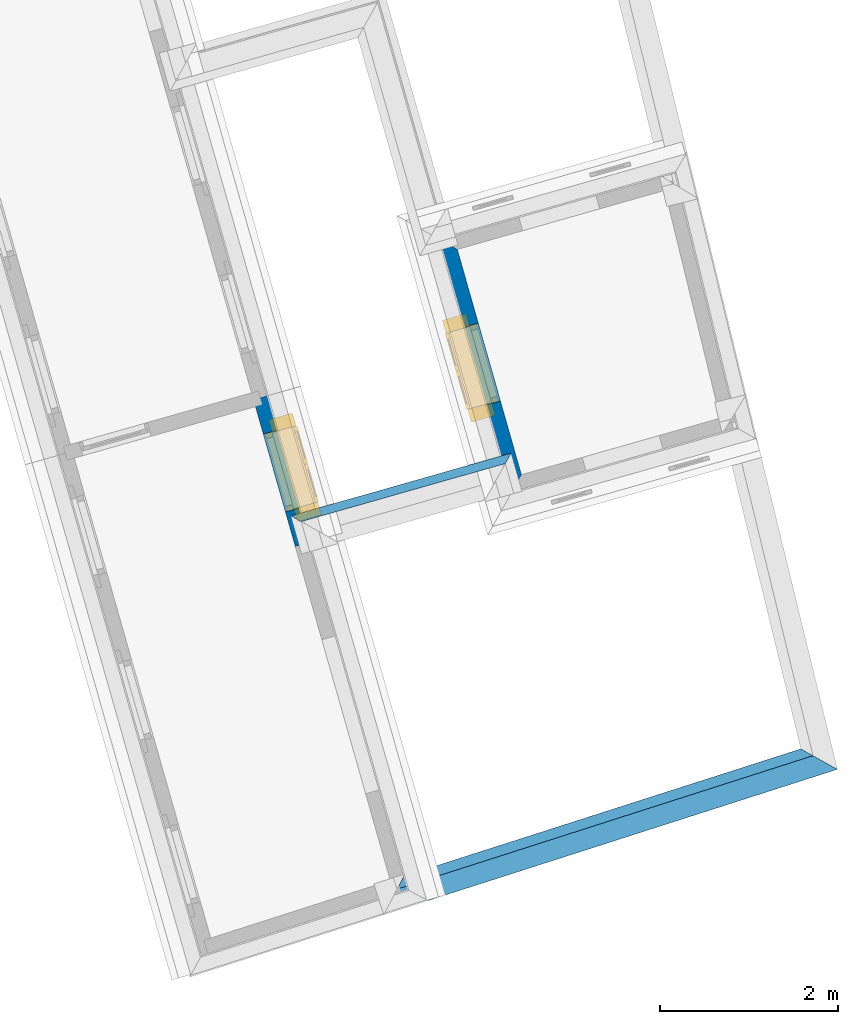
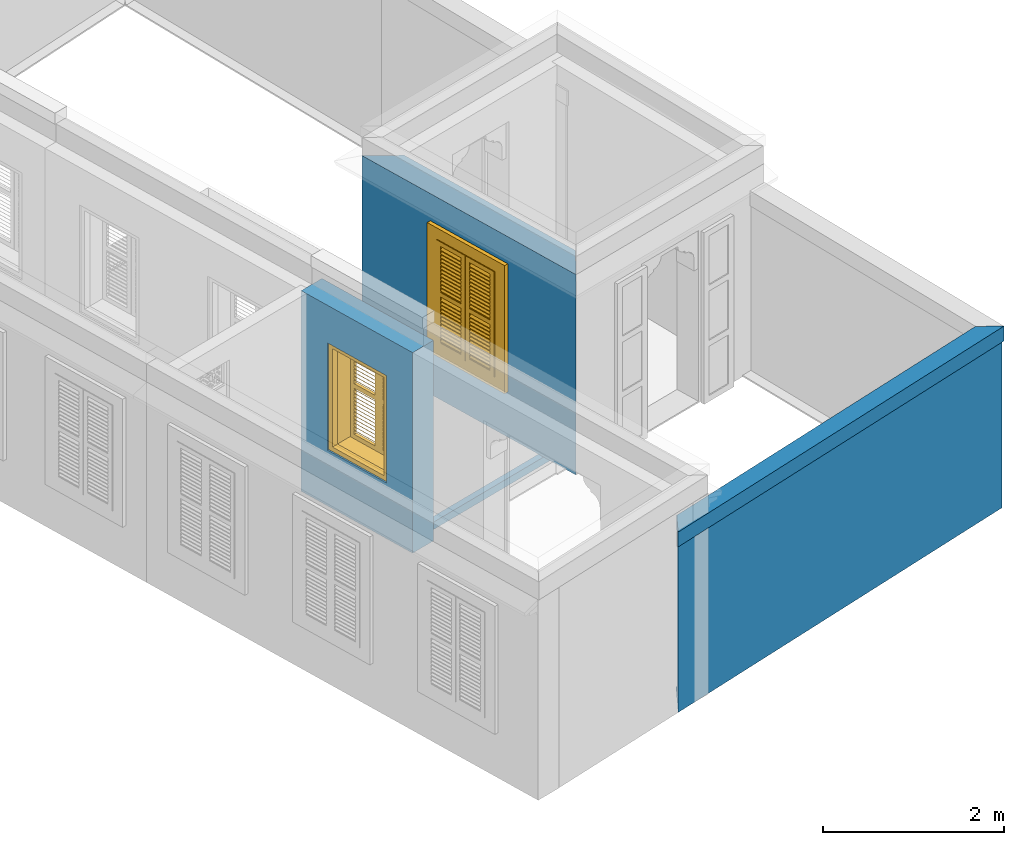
# One storey, part 5 of 13: 5 walls, 2 windows, 2 openings.
"""IFC4 building model written with IfcOpenShell, lengths in metres."""

from ifc_helpers import new_model, si_unit, frame, origin, origin_with_axes, place, context, subcontext, project, spatial, polyline, outline, extrude, clip, halfspace, faceted_brep, source, transform, mapped, material, layer, layer_set, layer_usage, material_profile, profile_set, profile_usage, type_object, type_shapes, element, fill, save


model = new_model("IFC4")

# Units and contexts
model_context = context("Model", 3, world=origin_with_axes())
body_context = subcontext(model_context, "Body", "Model", "MODEL_VIEW")
ifc_project = project(units=[si_unit("PLANEANGLEUNIT", "RADIAN"), si_unit("MASSUNIT", "GRAM", prefix="KILO"), si_unit("FORCEUNIT", "NEWTON", prefix="KILO"), si_unit("LENGTHUNIT", "METRE"), si_unit("AREAUNIT", "SQUARE_METRE"), si_unit("VOLUMEUNIT", "CUBIC_METRE")], contexts=[model_context, model_context])

# Site, building, storey
site_placement = place(None, origin_with_axes())
site = spatial("IfcSite", under=ifc_project, at=site_placement, Name="Site plot-3", CompositionType="ELEMENT")
building_placement = place(None, origin_with_axes())
building = spatial("IfcBuilding", under=site, at=building_placement, Name="Building plot-3", CompositionType="ELEMENT")
storey_placement = place(None, frame((0.0, 0.0, 3.3), z_axis=(0.0, 0.0, 1.0), x_axis=(1.0, 0.0, 0.0)))
storey = spatial("IfcBuildingStorey", under=building, at=storey_placement, Name="plot-3 1", CompositionType="ELEMENT", Elevation=3.3)

# Wall, opening, window
ifc_material = material(Name="Masonry")
ifc_layer = layer(ifc_material, 0.33, ventilated=False)
ifc_layer_set = layer_set([ifc_layer], Name="exterior_0.08_0.25")
ifc_layer_usage = layer_usage(ifc_layer_set, "AXIS2", "POSITIVE", -0.25)
wall_type_1 = type_object("IfcWallType", Name="exterior_0.08_0.25", PredefinedType="SOLIDWALL", material=ifc_layer_set)
wall_1_placement = place(storey_placement, frame((13.2483149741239, 23.0706030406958, 0.0), z_axis=(0.0, 0.0, 1.0), x_axis=(0.273606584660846, -0.961841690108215, 0.0)))
wall_1 = element("IfcWall", 1, at=wall_1_placement, inside=storey, type_object=wall_type_1, material=ifc_layer_usage, Name="exterior", context=body_context, shape_type="SweptSolid", body=[
    extrude(outline(polyline([(0.0799999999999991, 0.0800000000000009), (-0.249999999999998, -0.250000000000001), (3.04101093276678, -0.249999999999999), (2.71101093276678, 0.0800000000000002), (0.0799999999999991, 0.0800000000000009)])), origin_with_axes(), (0.0, 0.0, 1.0), 2.7),
])
opening_1_placement = place(wall_1_placement, frame((0.940505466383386, 0.0, 0.75)))
opening_1 = element("IfcOpeningElement", 2, at=opening_1_placement, cuts=wall_1, Name="My Opening", ObjectType="Opening", context=body_context, shape_type="SweptSolid", body=[
    extrude(outline(polyline([(0.0, -0.270000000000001), (0.910000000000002, -0.27), (0.910000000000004, 1.1), (1.88737914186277e-15, 1.1), (0.0, -0.270000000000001)])), origin_with_axes(), (0.0, 0.0, 1.0), 1.445),
])
window_type = type_object("IfcWindowType", Name="shuttered_shorter", PartitioningType="DOUBLE_PANEL_HORIZONTAL", PredefinedType="NOTDEFINED")
shared_shape = source(origin(), body_context, "Body", "Brep", [
    faceted_brep([(0.393, 0.0, 0.622), (0.074, 0.0, 0.622), (0.074, 0.0, 0.632), (0.393, 0.0, 0.632), (0.074, -0.04, 0.592), (0.393, -0.04, 0.592), (0.393, -0.04, 0.582), (0.074, -0.04, 0.582), (0.517, 0.0, 0.682), (0.836, 0.0, 0.682), (0.836, 0.0, 0.672), (0.517, 0.0, 0.672), (0.517, -0.04, 0.642), (0.836, -0.04, 0.642), (0.836, -0.04, 0.632), (0.517, -0.04, 0.632), (0.517, 0.0, 0.632), (0.836, 0.0, 0.632), (0.836, 0.0, 0.622), (0.517, 0.0, 0.622), (0.517, -0.04, 0.592), (0.836, -0.04, 0.592), (0.836, -0.04, 0.582), (0.517, -0.04, 0.582), (0.517, 0.0, 0.232), (0.836, 0.0, 0.232), (0.836, 0.0, 0.222), (0.517, 0.0, 0.222), (0.517, -0.04, 0.192), (0.836, -0.04, 0.192), (0.836, -0.04, 0.182), (0.517, -0.04, 0.182), (0.517, 0.0, 0.532), (0.836, 0.0, 0.532), (0.836, 0.0, 0.522), (0.517, 0.0, 0.522), (0.517, -0.04, 0.492), (0.836, -0.04, 0.492), (0.836, -0.04, 0.482), (0.517, -0.04, 0.482), (0.517, 0.0, 0.482), (0.836, 0.0, 0.482), (0.836, 0.0, 0.472), (0.517, 0.0, 0.472), (0.517, -0.04, 0.442), (0.836, -0.04, 0.442), (0.836, -0.04, 0.432), (0.517, -0.04, 0.432), (0.517, 0.0, 0.582), (0.836, 0.0, 0.582), (0.836, 0.0, 0.572), (0.517, 0.0, 0.572), (0.517, -0.04, 0.542), (0.836, -0.04, 0.542), (0.836, -0.04, 0.532), (0.517, -0.04, 0.532), (0.517, 0.0, 0.182), (0.836, 0.0, 0.182), (0.836, 0.0, 0.172), (0.517, 0.0, 0.172), (0.517, -0.04, 0.142), (0.836, -0.04, 0.142), (0.836, -0.04, 0.132), (0.517, -0.04, 0.132), (0.517, 0.0, 0.382), (0.836, 0.0, 0.382), (0.836, 0.0, 0.372), (0.517, 0.0, 0.372), (0.517, -0.04, 0.342), (0.836, -0.04, 0.342), (0.836, -0.04, 0.332), (0.517, -0.04, 0.332), (0.517, 0.0, 0.432), (0.836, 0.0, 0.432), (0.836, 0.0, 0.422), (0.517, 0.0, 0.422), (0.517, -0.04, 0.392), (0.836, -0.04, 0.392), (0.836, -0.04, 0.382), (0.517, -0.04, 0.382), (0.517, 0.0, 0.132), (0.836, 0.0, 0.132), (0.836, 0.0, 0.122), (0.517, 0.0, 0.122), (0.517, -0.04, 0.092), (0.836, -0.04, 0.092), (0.836, -0.04, 0.082), (0.517, -0.04, 0.082), (0.517, 0.0, 0.282), (0.836, 0.0, 0.282), (0.836, 0.0, 0.272), (0.517, 0.0, 0.272), (0.517, -0.04, 0.242), (0.836, -0.04, 0.242), (0.836, -0.04, 0.232), (0.517, -0.04, 0.232), (0.517, 0.0, 0.332), (0.836, 0.0, 0.332), (0.836, 0.0, 0.322), (0.517, 0.0, 0.322), (0.517, -0.04, 0.292), (0.836, -0.04, 0.292), (0.836, -0.04, 0.282), (0.517, -0.04, 0.282), (0.517, 0.0, 1.362667), (0.836, 0.0, 1.362667), (0.836, 0.0, 1.352667), (0.517, 0.0, 1.352667), (0.517, -0.04, 1.322667), (0.836, -0.04, 1.322667), (0.836, -0.04, 1.312667), (0.517, -0.04, 1.312667), (0.517, 0.0, 1.312667), (0.836, 0.0, 1.312667), (0.836, 0.0, 1.302667), (0.517, 0.0, 1.302667), (0.517, -0.04, 1.272667), (0.836, -0.04, 1.272667), (0.836, -0.04, 1.262667), (0.517, -0.04, 1.262667), (0.517, 0.0, 0.912667), (0.836, 0.0, 0.912667), (0.836, 0.0, 0.902667), (0.517, 0.0, 0.902667), (0.517, -0.04, 0.872667), (0.836, -0.04, 0.872667), (0.836, -0.04, 0.862667), (0.517, -0.04, 0.862667), (0.517, 0.0, 1.212667), (0.836, 0.0, 1.212667), (0.836, 0.0, 1.202667), (0.517, 0.0, 1.202667), (0.517, -0.04, 1.172667), (0.836, -0.04, 1.172667), (0.836, -0.04, 1.162667), (0.517, -0.04, 1.162667), (0.517, 0.0, 1.162667), (0.836, 0.0, 1.162667), (0.836, 0.0, 1.152667), (0.517, 0.0, 1.152667), (0.517, -0.04, 1.122667), (0.836, -0.04, 1.122667), (0.836, -0.04, 1.112667), (0.517, -0.04, 1.112667), (0.517, 0.0, 1.262667), (0.836, 0.0, 1.262667), (0.836, 0.0, 1.252667), (0.517, 0.0, 1.252667), (0.517, -0.04, 1.222667), (0.836, -0.04, 1.222667), (0.836, -0.04, 1.212667), (0.517, -0.04, 1.212667), (0.517, 0.0, 0.862667), (0.836, 0.0, 0.862667), (0.836, 0.0, 0.852667), (0.517, 0.0, 0.852667), (0.517, -0.04, 0.822667), (0.836, -0.04, 0.822667), (0.836, -0.04, 0.812667), (0.517, -0.04, 0.812667), (0.517, 0.0, 1.062667), (0.836, 0.0, 1.062667), (0.836, 0.0, 1.052667), (0.517, 0.0, 1.052667), (0.517, -0.04, 1.022667), (0.836, -0.04, 1.022667), (0.836, -0.04, 1.012667), (0.517, -0.04, 1.012667), (0.517, 0.0, 1.112667), (0.836, 0.0, 1.112667), (0.836, 0.0, 1.102667), (0.517, 0.0, 1.102667), (0.517, -0.04, 1.072667), (0.836, -0.04, 1.072667), (0.836, -0.04, 1.062667), (0.517, -0.04, 1.062667), (0.517, 0.0, 0.812667), (0.836, 0.0, 0.812667), (0.836, 0.0, 0.802667), (0.517, 0.0, 0.802667), (0.517, -0.04, 0.772667), (0.836, -0.04, 0.772667), (0.836, -0.04, 0.762667), (0.517, -0.04, 0.762667), (0.517, 0.0, 0.962667), (0.836, 0.0, 0.962667), (0.836, 0.0, 0.952667), (0.517, 0.0, 0.952667), (0.517, -0.04, 0.922667), (0.836, -0.04, 0.922667), (0.836, -0.04, 0.912667), (0.517, -0.04, 0.912667), (0.517, 0.0, 1.012667), (0.836, 0.0, 1.012667), (0.836, 0.0, 1.002667), (0.517, 0.0, 1.002667), (0.517, -0.04, 0.972667), (0.836, -0.04, 0.972667), (0.836, -0.04, 0.962667), (0.517, -0.04, 0.962667), (0.074, 0.0, 0.682), (0.393, 0.0, 0.682), (0.393, 0.0, 0.672), (0.074, 0.0, 0.672), (0.074, -0.04, 0.642), (0.393, -0.04, 0.642), (0.393, -0.04, 0.632), (0.074, -0.04, 0.632), (0.074, 0.0, 0.232), (0.393, 0.0, 0.232), (0.393, 0.0, 0.222), (0.074, 0.0, 0.222), (0.074, -0.04, 0.192), (0.393, -0.04, 0.192), (0.393, -0.04, 0.182), (0.074, -0.04, 0.182), (0.074, 0.0, 0.532), (0.393, 0.0, 0.532), (0.393, 0.0, 0.522), (0.074, 0.0, 0.522), (0.074, -0.04, 0.492), (0.393, -0.04, 0.492), (0.393, -0.04, 0.482), (0.074, -0.04, 0.482), (0.074, 0.0, 0.482), (0.393, 0.0, 0.482), (0.393, 0.0, 0.472), (0.074, 0.0, 0.472), (0.074, -0.04, 0.442), (0.393, -0.04, 0.442), (0.393, -0.04, 0.432), (0.074, -0.04, 0.432), (0.074, 0.0, 0.582), (0.393, 0.0, 0.582), (0.393, 0.0, 0.572), (0.074, 0.0, 0.572), (0.074, -0.04, 0.542), (0.393, -0.04, 0.542), (0.393, -0.04, 0.532), (0.074, -0.04, 0.532), (0.074, 0.0, 0.182), (0.393, 0.0, 0.182), (0.393, 0.0, 0.172), (0.074, 0.0, 0.172), (0.074, -0.04, 0.142), (0.393, -0.04, 0.142), (0.393, -0.04, 0.132), (0.074, -0.04, 0.132), (0.074, 0.0, 0.382), (0.393, 0.0, 0.382), (0.393, 0.0, 0.372), (0.074, 0.0, 0.372), (0.074, -0.04, 0.342), (0.393, -0.04, 0.342), (0.393, -0.04, 0.332), (0.074, -0.04, 0.332), (0.074, 0.0, 0.432), (0.393, 0.0, 0.432), (0.393, 0.0, 0.422), (0.074, 0.0, 0.422), (0.074, -0.04, 0.392), (0.393, -0.04, 0.392), (0.393, -0.04, 0.382), (0.074, -0.04, 0.382), (0.074, 0.0, 0.132), (0.393, 0.0, 0.132), (0.393, 0.0, 0.122), (0.074, 0.0, 0.122), (0.074, -0.04, 0.092), (0.393, -0.04, 0.092), (0.393, -0.04, 0.082), (0.074, -0.04, 0.082), (0.074, 0.0, 0.282), (0.393, 0.0, 0.282), (0.393, 0.0, 0.272), (0.074, 0.0, 0.272), (0.074, -0.04, 0.242), (0.393, -0.04, 0.242), (0.393, -0.04, 0.232), (0.074, -0.04, 0.232), (0.074, 0.0, 0.332), (0.393, 0.0, 0.332), (0.393, 0.0, 0.322), (0.074, 0.0, 0.322), (0.074, -0.04, 0.292), (0.393, -0.04, 0.292), (0.393, -0.04, 0.282), (0.074, -0.04, 0.282), (0.074, 0.0, 1.362667), (0.393, 0.0, 1.362667), (0.393, 0.0, 1.352667), (0.074, 0.0, 1.352667), (0.074, -0.04, 1.322667), (0.393, -0.04, 1.322667), (0.393, -0.04, 1.312667), (0.074, -0.04, 1.312667), (0.074, 0.0, 1.312667), (0.393, 0.0, 1.312667), (0.393, 0.0, 1.302667), (0.074, 0.0, 1.302667), (0.074, -0.04, 1.272667), (0.393, -0.04, 1.272667), (0.393, -0.04, 1.262667), (0.074, -0.04, 1.262667), (0.074, 0.0, 0.912667), (0.393, 0.0, 0.912667), (0.393, 0.0, 0.902667), (0.074, 0.0, 0.902667), (0.074, -0.04, 0.872667), (0.393, -0.04, 0.872667), (0.393, -0.04, 0.862667), (0.074, -0.04, 0.862667), (0.074, 0.0, 1.212667), (0.393, 0.0, 1.212667), (0.393, 0.0, 1.202667), (0.074, 0.0, 1.202667), (0.074, -0.04, 1.172667), (0.393, -0.04, 1.172667), (0.393, -0.04, 1.162667), (0.074, -0.04, 1.162667), (0.074, 0.0, 1.162667), (0.393, 0.0, 1.162667), (0.393, 0.0, 1.152667), (0.074, 0.0, 1.152667), (0.074, -0.04, 1.122667), (0.393, -0.04, 1.122667), (0.393, -0.04, 1.112667), (0.074, -0.04, 1.112667), (0.074, 0.0, 1.262667), (0.393, 0.0, 1.262667), (0.393, 0.0, 1.252667), (0.074, 0.0, 1.252667), (0.074, -0.04, 1.222667), (0.393, -0.04, 1.222667), (0.393, -0.04, 1.212667), (0.074, -0.04, 1.212667), (0.074, 0.0, 0.862667), (0.393, 0.0, 0.862667), (0.393, 0.0, 0.852667), (0.074, 0.0, 0.852667), (0.074, -0.04, 0.822667), (0.393, -0.04, 0.822667), (0.393, -0.04, 0.812667), (0.074, -0.04, 0.812667), (0.074, 0.0, 1.062667), (0.393, 0.0, 1.062667), (0.393, 0.0, 1.052667), (0.074, 0.0, 1.052667), (0.074, -0.04, 1.022667), (0.393, -0.04, 1.022667), (0.393, -0.04, 1.012667), (0.074, -0.04, 1.012667), (0.074, 0.0, 1.112667), (0.393, 0.0, 1.112667), (0.393, 0.0, 1.102667), (0.074, 0.0, 1.102667), (0.074, -0.04, 1.072667), (0.393, -0.04, 1.072667), (0.393, -0.04, 1.062667), (0.074, -0.04, 1.062667), (0.074, 0.0, 0.812667), (0.393, 0.0, 0.812667), (0.393, 0.0, 0.802667), (0.074, 0.0, 0.802667), (0.074, -0.04, 0.772667), (0.393, -0.04, 0.772667), (0.393, -0.04, 0.762667), (0.074, -0.04, 0.762667), (0.074, 0.0, 0.962667), (0.393, 0.0, 0.962667), (0.393, 0.0, 0.952667), (0.074, 0.0, 0.952667), (0.074, -0.04, 0.922667), (0.393, -0.04, 0.922667), (0.393, -0.04, 0.912667), (0.074, -0.04, 0.912667), (0.074, 0.0, 1.012667), (0.393, 0.0, 1.012667), (0.393, 0.0, 1.002667), (0.074, 0.0, 1.002667), (0.074, -0.04, 0.972667), (0.393, -0.04, 0.972667), (0.393, -0.04, 0.962667), (0.074, -0.04, 0.962667), (0.517, -0.04, 0.072), (0.457, -0.04, 0.012), (0.896, -0.04, 0.012), (0.836, -0.04, 0.072), (0.457, -0.04, 0.692667), (0.517, -0.04, 0.692667), (0.457, 0.0, 0.012), (0.896, 0.0, 0.012), (0.836, -0.04, 0.692667), (0.896, -0.04, 0.692667), (0.836, 0.0, 0.072), (0.517, 0.0, 0.072), (0.457, 0.0, 0.692667), (0.517, 0.0, 0.692667), (0.517, -0.04, 0.752666), (0.457, -0.04, 0.752666), (0.896, 0.0, 0.692667), (0.836, 0.0, 0.692667), (0.836, -0.04, 0.752666), (0.896, -0.04, 0.752666), (0.457, 0.0, 0.752666), (0.457, -0.04, 1.433333), (0.517, -0.04, 1.373333), (0.896, 0.0, 0.752666), (0.836, -0.04, 1.373333), (0.896, -0.04, 1.433333), (0.457, 0.0, 1.433333), (0.517, 0.0, 0.752666), (0.836, 0.0, 0.752666), (0.517, 0.0, 1.373333), (0.896, 0.0, 1.433333), (0.836, 0.0, 1.373333), (0.074, -0.04, 0.072), (0.014, -0.04, 0.012), (0.453, -0.04, 0.012), (0.393, -0.04, 0.072), (0.014, -0.04, 0.692667), (0.074, -0.04, 0.692667), (0.014, 0.0, 0.012), (0.453, 0.0, 0.012), (0.393, -0.04, 0.692667), (0.453, -0.04, 0.692667), (0.393, 0.0, 0.072), (0.074, 0.0, 0.072), (0.014, 0.0, 0.692667), (0.074, 0.0, 0.692667), (0.074, -0.04, 0.752666), (0.014, -0.04, 0.752666), (0.453, 0.0, 0.692667), (0.393, 0.0, 0.692667), (0.393, -0.04, 0.752666), (0.453, -0.04, 0.752666), (0.014, 0.0, 0.752666), (0.014, -0.04, 1.433333), (0.074, -0.04, 1.373333), (0.453, 0.0, 0.752666), (0.393, -0.04, 1.373333), (0.453, -0.04, 1.433333), (0.014, 0.0, 1.433333), (0.074, 0.0, 0.752666), (0.393, 0.0, 0.752666), (0.074, 0.0, 1.373333), (0.453, 0.0, 1.433333), (0.393, 0.0, 1.373333), (0.0, 0.33, 1.445), (0.91, 0.33, 1.445), (0.85, 0.33, 1.385), (0.06, 0.33, 1.385), (0.91, 0.25, 1.445), (0.0, 0.25, 1.445), (0.91, 0.25, 1.445), (0.85, 0.33, 0.06), (0.91, 0.33, 0.0), (0.85, 0.25, 1.385), (0.06, 0.25, 1.385), (0.0, 0.33, 0.0), (0.06, 0.33, 0.06), (0.0, 0.25, 0.0), (0.91, 0.25, 0.0), (0.85, 0.25, 0.06), (0.06, 0.25, 0.06), (1.05, 0.25, 1.585), (-0.14, 0.25, 1.585), (-0.14, -0.03, 1.585), (1.05, -0.03, 1.585), (0.9, -0.03, 1.435), (0.01, -0.03, 1.435), (0.01, 0.25, 1.435), (0.9, 0.25, 1.435), (0.9, 0.25, 0.01), (0.9, -0.03, 0.01), (1.05, -0.03, -0.14), (1.05, 0.25, -0.14), (0.01, -0.03, 0.01), (0.01, 0.25, 0.01), (-0.14, -0.03, -0.14), (-0.14, 0.25, -0.14)], [[[0, 1, 2, 3]], [[4, 5, 3, 2]], [[5, 6, 0, 3]], [[1, 0, 6, 7]], [[2, 1, 7, 4]], [[5, 4, 7, 6]], [[8, 9, 10, 11]], [[12, 13, 9, 8]], [[13, 14, 10, 9]], [[14, 15, 11, 10]], [[15, 12, 8, 11]], [[13, 12, 15, 14]], [[16, 17, 18, 19]], [[20, 21, 17, 16]], [[21, 22, 18, 17]], [[22, 23, 19, 18]], [[23, 20, 16, 19]], [[21, 20, 23, 22]], [[24, 25, 26, 27]], [[28, 29, 25, 24]], [[29, 30, 26, 25]], [[30, 31, 27, 26]], [[31, 28, 24, 27]], [[29, 28, 31, 30]], [[32, 33, 34, 35]], [[36, 37, 33, 32]], [[37, 38, 34, 33]], [[38, 39, 35, 34]], [[39, 36, 32, 35]], [[37, 36, 39, 38]], [[40, 41, 42, 43]], [[44, 45, 41, 40]], [[45, 46, 42, 41]], [[46, 47, 43, 42]], [[47, 44, 40, 43]], [[45, 44, 47, 46]], [[48, 49, 50, 51]], [[52, 53, 49, 48]], [[53, 54, 50, 49]], [[54, 55, 51, 50]], [[55, 52, 48, 51]], [[53, 52, 55, 54]], [[56, 57, 58, 59]], [[60, 61, 57, 56]], [[61, 62, 58, 57]], [[62, 63, 59, 58]], [[63, 60, 56, 59]], [[61, 60, 63, 62]], [[64, 65, 66, 67]], [[68, 69, 65, 64]], [[69, 70, 66, 65]], [[70, 71, 67, 66]], [[71, 68, 64, 67]], [[69, 68, 71, 70]], [[72, 73, 74, 75]], [[76, 77, 73, 72]], [[77, 78, 74, 73]], [[78, 79, 75, 74]], [[79, 76, 72, 75]], [[77, 76, 79, 78]], [[80, 81, 82, 83]], [[84, 85, 81, 80]], [[85, 86, 82, 81]], [[86, 87, 83, 82]], [[87, 84, 80, 83]], [[85, 84, 87, 86]], [[88, 89, 90, 91]], [[92, 93, 89, 88]], [[93, 94, 90, 89]], [[94, 95, 91, 90]], [[95, 92, 88, 91]], [[93, 92, 95, 94]], [[96, 97, 98, 99]], [[100, 101, 97, 96]], [[101, 102, 98, 97]], [[102, 103, 99, 98]], [[103, 100, 96, 99]], [[101, 100, 103, 102]], [[104, 105, 106, 107]], [[108, 109, 105, 104]], [[109, 110, 106, 105]], [[110, 111, 107, 106]], [[111, 108, 104, 107]], [[109, 108, 111, 110]], [[112, 113, 114, 115]], [[116, 117, 113, 112]], [[117, 118, 114, 113]], [[118, 119, 115, 114]], [[119, 116, 112, 115]], [[117, 116, 119, 118]], [[120, 121, 122, 123]], [[124, 125, 121, 120]], [[125, 126, 122, 121]], [[126, 127, 123, 122]], [[127, 124, 120, 123]], [[125, 124, 127, 126]], [[128, 129, 130, 131]], [[132, 133, 129, 128]], [[133, 134, 130, 129]], [[134, 135, 131, 130]], [[135, 132, 128, 131]], [[133, 132, 135, 134]], [[136, 137, 138, 139]], [[140, 141, 137, 136]], [[141, 142, 138, 137]], [[142, 143, 139, 138]], [[139, 143, 140, 136]], [[141, 140, 143, 142]], [[144, 145, 146, 147]], [[148, 149, 145, 144]], [[149, 150, 146, 145]], [[150, 151, 147, 146]], [[151, 148, 144, 147]], [[149, 148, 151, 150]], [[152, 153, 154, 155]], [[156, 157, 153, 152]], [[157, 158, 154, 153]], [[158, 159, 155, 154]], [[159, 156, 152, 155]], [[157, 156, 159, 158]], [[160, 161, 162, 163]], [[164, 165, 161, 160]], [[165, 166, 162, 161]], [[166, 167, 163, 162]], [[167, 164, 160, 163]], [[165, 164, 167, 166]], [[168, 169, 170, 171]], [[172, 173, 169, 168]], [[173, 174, 170, 169]], [[174, 175, 171, 170]], [[175, 172, 168, 171]], [[173, 172, 175, 174]], [[176, 177, 178, 179]], [[180, 181, 177, 176]], [[181, 182, 178, 177]], [[182, 183, 179, 178]], [[183, 180, 176, 179]], [[181, 180, 183, 182]], [[184, 185, 186, 187]], [[188, 189, 185, 184]], [[189, 190, 186, 185]], [[190, 191, 187, 186]], [[191, 188, 184, 187]], [[189, 188, 191, 190]], [[192, 193, 194, 195]], [[196, 197, 193, 192]], [[197, 198, 194, 193]], [[198, 199, 195, 194]], [[199, 196, 192, 195]], [[197, 196, 199, 198]], [[200, 201, 202, 203]], [[204, 205, 201, 200]], [[205, 206, 202, 201]], [[206, 207, 203, 202]], [[207, 204, 200, 203]], [[205, 204, 207, 206]], [[208, 209, 210, 211]], [[212, 213, 209, 208]], [[213, 214, 210, 209]], [[214, 215, 211, 210]], [[215, 212, 208, 211]], [[213, 212, 215, 214]], [[216, 217, 218, 219]], [[220, 221, 217, 216]], [[221, 222, 218, 217]], [[222, 223, 219, 218]], [[223, 220, 216, 219]], [[221, 220, 223, 222]], [[224, 225, 226, 227]], [[228, 229, 225, 224]], [[229, 230, 226, 225]], [[230, 231, 227, 226]], [[231, 228, 224, 227]], [[229, 228, 231, 230]], [[232, 233, 234, 235]], [[236, 237, 233, 232]], [[237, 238, 234, 233]], [[238, 239, 235, 234]], [[239, 236, 232, 235]], [[237, 236, 239, 238]], [[240, 241, 242, 243]], [[244, 245, 241, 240]], [[245, 246, 242, 241]], [[246, 247, 243, 242]], [[247, 244, 240, 243]], [[245, 244, 247, 246]], [[248, 249, 250, 251]], [[252, 253, 249, 248]], [[253, 254, 250, 249]], [[254, 255, 251, 250]], [[255, 252, 248, 251]], [[253, 252, 255, 254]], [[256, 257, 258, 259]], [[260, 261, 257, 256]], [[261, 262, 258, 257]], [[262, 263, 259, 258]], [[263, 260, 256, 259]], [[261, 260, 263, 262]], [[264, 265, 266, 267]], [[268, 269, 265, 264]], [[269, 270, 266, 265]], [[270, 271, 267, 266]], [[271, 268, 264, 267]], [[269, 268, 271, 270]], [[272, 273, 274, 275]], [[276, 277, 273, 272]], [[277, 278, 274, 273]], [[278, 279, 275, 274]], [[279, 276, 272, 275]], [[277, 276, 279, 278]], [[280, 281, 282, 283]], [[284, 285, 281, 280]], [[285, 286, 282, 281]], [[286, 287, 283, 282]], [[287, 284, 280, 283]], [[285, 284, 287, 286]], [[288, 289, 290, 291]], [[292, 293, 289, 288]], [[293, 294, 290, 289]], [[294, 295, 291, 290]], [[295, 292, 288, 291]], [[293, 292, 295, 294]], [[296, 297, 298, 299]], [[300, 301, 297, 296]], [[301, 302, 298, 297]], [[302, 303, 299, 298]], [[303, 300, 296, 299]], [[301, 300, 303, 302]], [[304, 305, 306, 307]], [[308, 309, 305, 304]], [[309, 310, 306, 305]], [[310, 311, 307, 306]], [[311, 308, 304, 307]], [[309, 308, 311, 310]], [[312, 313, 314, 315]], [[316, 317, 313, 312]], [[317, 318, 314, 313]], [[318, 319, 315, 314]], [[319, 316, 312, 315]], [[317, 316, 319, 318]], [[320, 321, 322, 323]], [[324, 325, 321, 320]], [[325, 326, 322, 321]], [[326, 327, 323, 322]], [[327, 324, 320, 323]], [[325, 324, 327, 326]], [[328, 329, 330, 331]], [[332, 333, 329, 328]], [[333, 334, 330, 329]], [[334, 335, 331, 330]], [[335, 332, 328, 331]], [[333, 332, 335, 334]], [[336, 337, 338, 339]], [[340, 341, 337, 336]], [[341, 342, 338, 337]], [[342, 343, 339, 338]], [[343, 340, 336, 339]], [[341, 340, 343, 342]], [[344, 345, 346, 347]], [[348, 349, 345, 344]], [[349, 350, 346, 345]], [[350, 351, 347, 346]], [[351, 348, 344, 347]], [[349, 348, 351, 350]], [[352, 353, 354, 355]], [[356, 357, 353, 352]], [[357, 358, 354, 353]], [[358, 359, 355, 354]], [[359, 356, 352, 355]], [[357, 356, 359, 358]], [[360, 361, 362, 363]], [[364, 365, 361, 360]], [[365, 366, 362, 361]], [[366, 367, 363, 362]], [[367, 364, 360, 363]], [[365, 364, 367, 366]], [[368, 369, 370, 371]], [[372, 373, 369, 368]], [[373, 374, 370, 369]], [[374, 375, 371, 370]], [[375, 372, 368, 371]], [[373, 372, 375, 374]], [[376, 377, 378, 379]], [[380, 381, 377, 376]], [[381, 382, 378, 377]], [[382, 383, 379, 378]], [[383, 380, 376, 379]], [[381, 380, 383, 382]], [[384, 385, 386, 387]], [[388, 385, 384, 389]], [[390, 391, 386, 385]], [[392, 387, 386, 393]], [[384, 387, 394, 395]], [[390, 385, 388, 396]], [[389, 384, 395, 397]], [[389, 398, 399, 388]], [[390, 395, 394, 391]], [[400, 393, 386, 391]], [[387, 392, 401, 394]], [[402, 392, 393, 403]], [[396, 388, 399, 404]], [[390, 396, 397, 395]], [[392, 389, 397, 401]], [[398, 389, 392, 402]], [[405, 399, 398, 406]], [[394, 401, 400, 391]], [[407, 403, 393, 400]], [[408, 402, 403, 409]], [[404, 399, 405, 410]], [[411, 397, 396, 404]], [[397, 411, 412, 401]], [[398, 402, 412, 411]], [[406, 398, 411, 413]], [[405, 406, 408, 409]], [[401, 412, 407, 400]], [[414, 409, 403, 407]], [[402, 408, 415, 412]], [[405, 409, 414, 410]], [[404, 410, 413, 411]], [[408, 406, 413, 415]], [[412, 415, 414, 407]], [[413, 410, 414, 415]], [[416, 417, 418, 419]], [[420, 417, 416, 421]], [[422, 423, 418, 417]], [[424, 419, 418, 425]], [[416, 419, 426, 427]], [[422, 417, 420, 428]], [[421, 416, 427, 429]], [[421, 430, 431, 420]], [[422, 427, 426, 423]], [[432, 425, 418, 423]], [[419, 424, 433, 426]], [[434, 424, 425, 435]], [[428, 420, 431, 436]], [[422, 428, 429, 427]], [[424, 421, 429, 433]], [[430, 421, 424, 434]], [[437, 431, 430, 438]], [[426, 433, 432, 423]], [[439, 435, 425, 432]], [[440, 434, 435, 441]], [[436, 431, 437, 442]], [[443, 429, 428, 436]], [[429, 443, 444, 433]], [[430, 434, 444, 443]], [[438, 430, 443, 445]], [[437, 438, 440, 441]], [[433, 444, 439, 432]], [[446, 441, 435, 439]], [[434, 440, 447, 444]], [[437, 441, 446, 442]], [[436, 442, 445, 443]], [[440, 438, 445, 447]], [[444, 447, 446, 439]], [[445, 442, 446, 447]], [[448, 449, 450, 451]], [[452, 449, 448]], [[448, 453, 454]], [[448, 454, 452]], [[455, 450, 449, 456]], [[451, 450, 457, 458]], [[459, 448, 451, 460]], [[448, 459, 461, 453]], [[454, 453, 458, 457]], [[462, 452, 454]], [[454, 457, 463]], [[454, 463, 462]], [[456, 449, 452, 462]], [[450, 455, 463, 457]], [[456, 459, 460, 455]], [[460, 451, 458, 464]], [[459, 456, 462, 461]], [[464, 458, 453, 461]], [[461, 462, 463, 464]], [[455, 460, 464, 463]], [[465, 466, 467, 468]], [[469, 470, 471, 472]], [[473, 474, 469, 472]], [[465, 468, 475, 476]], [[470, 477, 478, 471]], [[474, 473, 478, 477]], [[474, 477, 479, 475]], [[470, 467, 479, 477]], [[470, 469, 468, 467]], [[474, 475, 468, 469]], [[471, 478, 480, 466]], [[473, 472, 465, 476]], [[473, 476, 480, 478]], [[466, 465, 472, 471]], [[480, 476, 475, 479]], [[480, 479, 467, 466]]]),
])
type_shapes(window_type, [shared_shape])
window_1_placement = place(storey_placement, frame((13.2459462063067, 22.0921118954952, 0.75), z_axis=(0.0, 0.0, 1.0), x_axis=(0.248981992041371, -0.875275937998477, 0.0)))
window_1 = element("IfcWindow", 3, at=window_1_placement, inside=storey, type_object=window_type, Name="circulation sahn window", OverallHeight=1.445, OverallWidth=0.91, context=body_context, shape_type="MappedRepresentation", body=[
    mapped(shared_shape, transform((0.0, 0.0, 0.0), scale=1.0)),
])
fill(opening_1, window_1)

wall_2_placement = place(storey_placement, frame((11.6045240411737, 19.7012721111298, 0.0), z_axis=(0.0, 0.0, 1.0), x_axis=(-0.273606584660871, 0.961841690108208, 0.0)))
wall_2 = element("IfcWall", 4, at=wall_2_placement, inside=storey, type_object=wall_type_1, material=ifc_layer_usage, Name="exterior", context=body_context, shape_type="SweptSolid", body=[
    extrude(outline(polyline([(3.93064720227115e-15, 0.0800000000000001), (-1.18085671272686e-14, -0.25), (1.71304516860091, -0.25), (1.71304516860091, 0.0799999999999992), (3.93064720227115e-15, 0.0800000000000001)])), origin_with_axes(), (0.0, 0.0, 1.0), 2.7),
])
opening_2_placement = place(wall_2_placement, frame((0.401522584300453, 0.0, 0.75)))
opening_2 = element("IfcOpeningElement", 5, at=opening_2_placement, cuts=wall_2, Name="My Opening", ObjectType="Opening", context=body_context, shape_type="SweptSolid", body=[
    extrude(outline(polyline([(0.0, -0.27), (0.910000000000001, -0.270000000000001), (0.910000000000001, 1.1), (1.66533453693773e-16, 1.1), (0.0, -0.27)])), origin_with_axes(), (0.0, 0.0, 1.0), 1.445),
])
window_2_placement = place(storey_placement, frame((11.7543620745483, 20.1613470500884, 0.75), z_axis=(0.0, 0.0, 1.0), x_axis=(-0.248981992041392, 0.87527593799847, 0.0)))
window_2 = element("IfcWindow", 6, at=window_2_placement, inside=storey, type_object=window_type, Name="circulation sahn window", OverallHeight=1.445, OverallWidth=0.91, context=body_context, shape_type="MappedRepresentation", body=[
    mapped(shared_shape, transform((0.0, 0.0, 0.0), scale=1.0)),
])
fill(opening_2, window_2)

# Walls
ifc_material_profile_1 = material_profile(None, outline(polyline([(0.25, 0.0), (0.25, 2.245), (0.05, 2.245), (0.05, 0.02), (-0.08, 0.02), (-0.08, 0.0), (0.25, 0.0)])))
ifc_profile_set_1 = profile_set([ifc_material_profile_1])
ifc_profile_usage_1 = profile_usage(ifc_profile_set_1)
wall_type_2 = type_object("IfcWallType", Name="parapet party_0", PredefinedType="PARAPET", material=ifc_profile_set_1)
wall_3_placement = place(storey_placement, frame((18.2517520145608, 17.6585786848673, 0.0), z_axis=(-0.952226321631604, -0.305393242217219, 0.0), x_axis=(0.305393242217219, -0.952226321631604, 0.0)))
element("IfcWall", 7, at=wall_3_placement, inside=storey, type_object=wall_type_2, material=ifc_profile_usage_1, Name="parapet party_0", context=body_context, shape_type="Clipping", body=[
    clip(clip(extrude(outline(polyline([(0.25, 0.0), (0.25, 2.245), (0.05, 2.245), (0.05, 0.02), (-0.08, 0.02), (-0.08, 0.0), (0.25, 0.0)])), origin_with_axes(), (0.0, 0.0, 1.0), 6.83790577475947), halfspace(frame((0.0, 0.0, 5.83790577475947), z_axis=(0.707106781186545, 0.0, -0.707106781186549), x_axis=(0.0, 1.0, 0.0)), True)), halfspace(frame((0.0, 0.0, 1.0), z_axis=(-0.681389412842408, 0.0, -0.73192108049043), x_axis=(0.0, 1.0, 0.0)), False)),
])
ifc_material_profile_2 = material_profile(None, outline(polyline([(0.265, 2.245), (0.265, 2.445), (0.035, 2.445), (0.035, 2.245), (0.265, 2.245)])))
ifc_profile_set_2 = profile_set([ifc_material_profile_2])
ifc_profile_usage_2 = profile_usage(ifc_profile_set_2)
wall_type_3 = type_object("IfcWallType", Name="parapet party_1", PredefinedType="PARAPET", material=ifc_profile_set_2)
wall_4_placement = place(storey_placement, frame((18.2517520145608, 17.6585786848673, 0.0), z_axis=(-0.952226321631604, -0.305393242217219, 0.0), x_axis=(0.305393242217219, -0.952226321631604, 0.0)))
element("IfcWall", 8, at=wall_4_placement, inside=storey, type_object=wall_type_3, material=ifc_profile_usage_2, Name="parapet party_1", context=body_context, shape_type="Clipping", body=[
    clip(clip(extrude(outline(polyline([(0.265, 2.245), (0.265, 2.445), (0.035, 2.445), (0.035, 2.245), (0.265, 2.245)])), origin_with_axes(), (0.0, 0.0, 1.0), 6.83790577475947), halfspace(frame((0.0, 0.0, 5.83790577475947), z_axis=(0.707106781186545, 0.0, -0.707106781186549), x_axis=(0.0, 1.0, 0.0)), True)), halfspace(frame((0.0, 0.0, 1.0), z_axis=(-0.681389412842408, 0.0, -0.73192108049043), x_axis=(0.0, 1.0, 0.0)), False)),
])
ifc_material_profile_3 = material_profile(None, outline(polyline([(0.25, -0.1), (0.265, -0.1), (0.265, -0.085), (0.278, -0.084), (0.289, -0.081), (0.301, -0.074), (0.309, -0.065), (0.315, -0.055), (0.324, -0.044), (0.334, -0.038), (0.345, -0.035), (0.345, -0.015), (0.25, 0.0), (0.25, -0.1)])))
ifc_profile_set_3 = profile_set([ifc_material_profile_3])
ifc_profile_usage_3 = profile_usage(ifc_profile_set_3)
wall_type_4 = type_object("IfcWallType", Name="parapet internal_2", PredefinedType="PARAPET", material=ifc_profile_set_3)
wall_5_placement = place(storey_placement, frame((10.940853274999, 19.5124835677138, 0.0), z_axis=(0.961841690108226, 0.273606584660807, 0.0), x_axis=(-0.273606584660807, 0.961841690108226, 0.0)))
element("IfcWall", 9, at=wall_5_placement, inside=storey, type_object=wall_type_4, material=ifc_profile_usage_3, Name="parapet internal_2", context=body_context, shape_type="Clipping", body=[
    clip(clip(extrude(outline(polyline([(0.25, -0.1), (0.265, -0.1), (0.265, -0.085), (0.278, -0.084), (0.289, -0.081), (0.301, -0.074), (0.309, -0.065), (0.315, -0.055), (0.324, -0.044), (0.334, -0.038), (0.345, -0.035), (0.345, -0.015), (0.25, 0.0), (0.25, -0.1)])), origin_with_axes(), (0.0, 0.0, 1.0), 3.88293777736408), halfspace(frame((0.0, 0.0, 2.88293777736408), z_axis=(0.70710678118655, 0.0, -0.707106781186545), x_axis=(0.0, 1.0, 0.0)), True)), halfspace(frame((0.0, 0.0, 1.0), z_axis=(-0.707106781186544, 0.0, -0.707106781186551), x_axis=(0.0, 1.0, 0.0)), False)),
])

save(model, "model.ifc")
